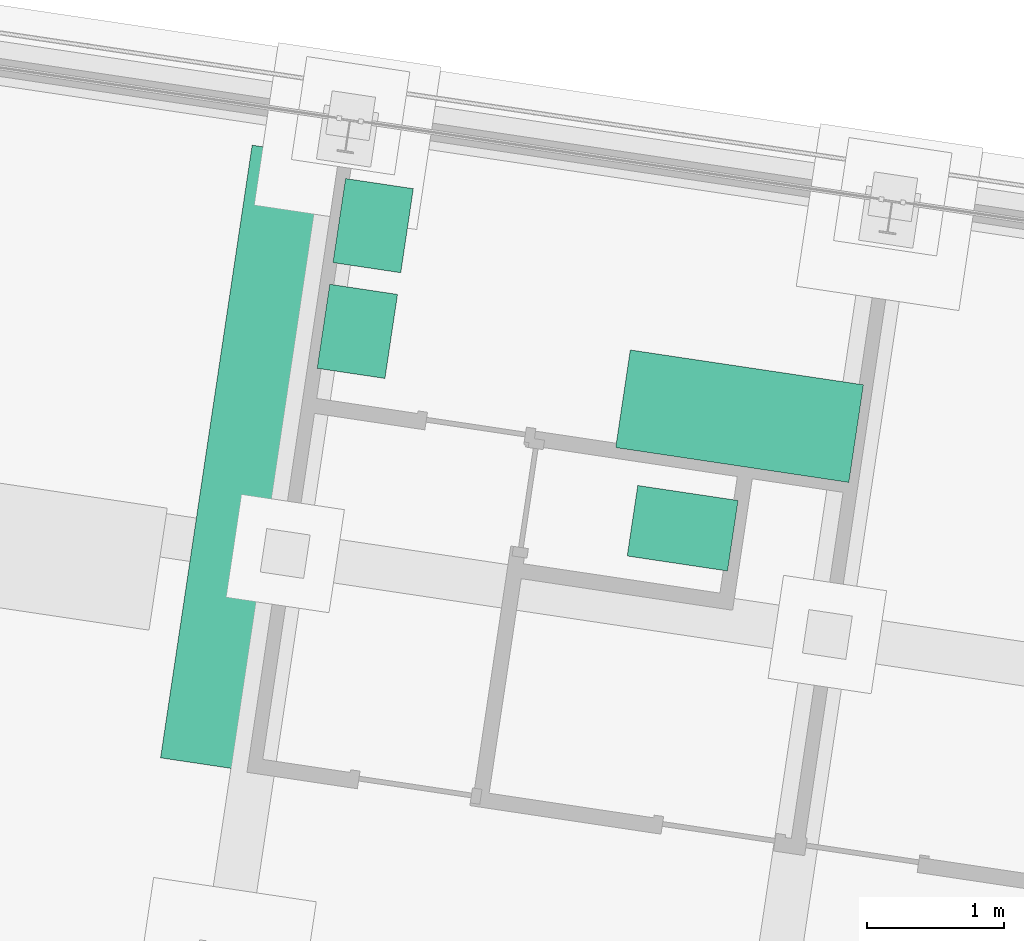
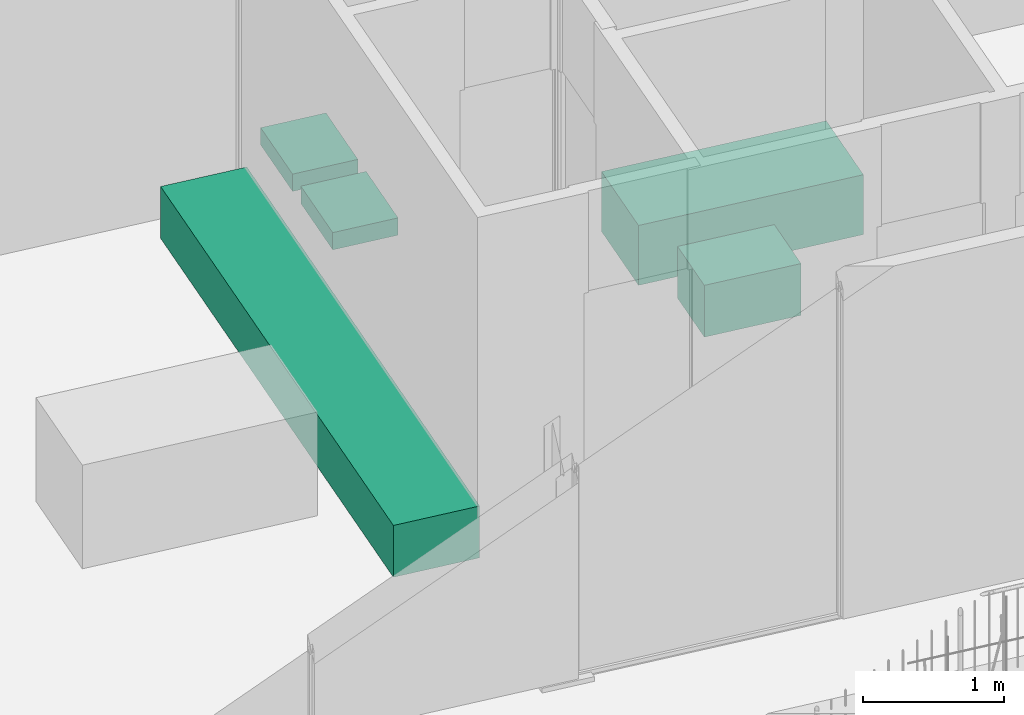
# One storey, part 141 of 143: 5 sanitary terminals.
"""IFC4 building model written with IfcOpenShell, lengths in metres."""

import ifcopenshell
import ifcopenshell.guid

model = None  # the IFC model being written
_history = None  # IfcOwnerHistory: only IFC2X3 demands one
_inside = {}  # id of a spatial element -> (the spatial element, [elements in it])
_under = {}  # id of a project, library or spatial element -> (it, [spatial elements below it])
_declared = {}  # id of a project -> (the project, [libraries it declares])
_typed = {}  # id of a type object -> (the type object, [elements of that type])
_made_of = {}  # id of a material, layer set ... -> (it, [elements and type objects made of it])


def new_model(schema):
    """Start an empty IFC model of exactly this schema.

    Asked for "IFC4X3", IfcOpenShell would pick the latest addendum, in which some entities
    have other attributes; the version numbers below select the first issue.
    IFC2X3 requires an IfcOwnerHistory on every rooted entity: one is made here for all.
    """
    global model, _history
    if schema == "IFC4X3":
        model = ifcopenshell.file(schema_version=(4, 3, 0, 0))
    else:
        model = ifcopenshell.file(schema=schema)
    _inside.clear()
    _under.clear()
    _declared.clear()
    _typed.clear()
    _made_of.clear()
    _history = None
    if model.schema == "IFC2X3":
        org = make("IfcOrganization", Name="unknown")
        user = make(
            "IfcPersonAndOrganization",
            ThePerson=make("IfcPerson", FamilyName="unknown"),
            TheOrganization=org,
        )
        app = make(
            "IfcApplication",
            ApplicationDeveloper=org,
            Version="unknown",
            ApplicationFullName="unknown",
            ApplicationIdentifier="unknown",
        )
        _history = make(
            "IfcOwnerHistory",
            OwningUser=user,
            OwningApplication=app,
            ChangeAction="ADDED",
            CreationDate=0,
        )
    return model


def make(cls, **values):
    """One entity of the class cls with the attributes given. An attribute that is None is left unset."""
    return model.create_entity(
        cls, **{name: value for name, value in values.items() if value is not None}
    )


def rooted(cls, **values):
    """An entity with a GlobalId (a new one), such as an element, a storey or a relation."""
    return make(cls, GlobalId=ifcopenshell.guid.new(), OwnerHistory=_history, **values)


def si_unit(unit_type, name, prefix=None):
    """IfcSIUnit, for example si_unit("LENGTHUNIT", "METRE", prefix="MILLI")."""
    return make("IfcSIUnit", UnitType=unit_type, Prefix=prefix, Name=name)


def assignment(units):
    """IfcUnitAssignment: the units of a project."""
    return None if units is None else make("IfcUnitAssignment", Units=units)


def point(xyz):
    """IfcCartesianPoint."""
    return None if xyz is None else make("IfcCartesianPoint", Coordinates=xyz)


def direction(xyz):
    """IfcDirection."""
    return None if xyz is None else make("IfcDirection", DirectionRatios=xyz)


def frame(location, z_axis=None, x_axis=None):
    """IfcAxis2Placement3D, a coordinate frame: its origin and axes. An axis left out is left unset."""
    return make(
        "IfcAxis2Placement3D",
        Location=point(location),
        Axis=direction(z_axis),
        RefDirection=direction(x_axis),
    )


def origin_with_axes():
    """The frame at (0, 0, 0) with the z axis (0, 0, 1) and the x axis (1, 0, 0) written out."""
    return frame((0.0, 0.0, 0.0), z_axis=(0.0, 0.0, 1.0), x_axis=(1.0, 0.0, 0.0))


def place(relative_to, where):
    """IfcLocalPlacement: puts the frame where relative to a parent placement (None: the world)."""
    return make(
        "IfcLocalPlacement", PlacementRelTo=relative_to, RelativePlacement=where
    )


def context(
    kind, dimensions, precision=None, world=None, true_north=None, identifier=None
):
    """IfcGeometricRepresentationContext, for example the 3D "Model" context."""
    return make(
        "IfcGeometricRepresentationContext",
        ContextIdentifier=identifier,
        ContextType=kind,
        CoordinateSpaceDimension=dimensions,
        Precision=precision,
        WorldCoordinateSystem=world,
        TrueNorth=true_north,
    )


def subcontext(parent, identifier, kind, view, scale=None):
    """IfcGeometricRepresentationSubContext, for example "Body" below "Model"."""
    return make(
        "IfcGeometricRepresentationSubContext",
        ContextIdentifier=identifier,
        ContextType=kind,
        ParentContext=parent,
        TargetScale=scale,
        TargetView=view,
    )


def project(units=None, contexts=None):
    """IfcProject with its units and contexts."""
    return rooted(
        "IfcProject",
        Name="project",
        RepresentationContexts=contexts,
        UnitsInContext=assignment(units),
    )


def spatial(cls, under=None, at=None, **own):
    """A site, building, storey or space (cls), placed at a placement, below another one or the project."""
    s = rooted(cls, ObjectPlacement=at, **own)
    if under is not None:
        _under.setdefault(under.id(), (under, []))[1].append(s)
    return s


def polyline(points):
    """IfcPolyline through the points."""
    return make("IfcPolyline", Points=[point(p) for p in points])


def outline(outer, holes=None, kind="AREA"):
    """IfcArbitraryClosedProfileDef: a profile drawn as a closed curve; with holes, ...WithVoids."""
    if holes is None:
        return make("IfcArbitraryClosedProfileDef", ProfileType=kind, OuterCurve=outer)
    return make(
        "IfcArbitraryProfileDefWithVoids",
        ProfileType=kind,
        OuterCurve=outer,
        InnerCurves=holes,
    )


def extrude(swept, where, along, depth):
    """IfcExtrudedAreaSolid: the profile swept, set in the frame where, extruded along a direction by depth."""
    return make(
        "IfcExtrudedAreaSolid",
        SweptArea=swept,
        Position=where,
        ExtrudedDirection=direction(along),
        Depth=depth,
    )


def shape(context_of_items, identifier, shape_type, items):
    """IfcShapeRepresentation: the items that make up one representation, for example the "Body"."""
    return make(
        "IfcShapeRepresentation",
        ContextOfItems=context_of_items,
        RepresentationIdentifier=identifier,
        RepresentationType=shape_type,
        Items=items,
    )


def material(Name=None, Category=None):
    """IfcMaterial."""
    return make("IfcMaterial", Name=Name, Category=Category)


def made_of(thing, what):
    """Note that an element or type object is made of a material, layer set ...; save() writes the relation."""
    if what is not None:
        _made_of.setdefault(what.id(), (what, []))[1].append(thing)
    return thing


def element(
    cls,
    number,
    at=None,
    inside=None,
    cuts=None,
    type_object=None,
    material=None,
    context=None,
    identifier="Body",
    shape_type=None,
    held_by="IfcProductDefinitionShape",
    body=None,
    shapes=None,
    **own,
):
    """One element of the class cls, such as IfcWall. Its Tag is "e" and its number.

    at: its placement. inside: the storey or other place that contains it. cuts: it is an
    opening in that element (IfcRelVoidsElement). A single representation is given by context,
    identifier, shape_type and body (its items); several are given by shapes. held_by: the class
    of the entity that holds the representations. save() writes the other relations.
    """
    e = rooted(cls, Tag="e%d" % number, ObjectPlacement=at, **own)
    if body is not None:
        shapes = [shape(context, identifier, shape_type, body)]
    if shapes is not None:
        e.Representation = make(held_by, Representations=shapes)
    if inside is not None:
        _inside.setdefault(inside.id(), (inside, []))[1].append(e)
    if cuts is not None:
        rooted(
            "IfcRelVoidsElement", RelatingBuildingElement=cuts, RelatedOpeningElement=e
        )
    if type_object is not None:
        _typed.setdefault(type_object.id(), (type_object, []))[1].append(e)
    return made_of(e, material)


def aggregate(whole, parts):
    """IfcRelAggregates: a whole, such as a stair, and the parts it consists of."""
    return rooted("IfcRelAggregates", RelatingObject=whole, RelatedObjects=parts)


def save(model, path):
    """Write the relations noted so far, then the file.

    IfcRelAggregates (storeys below a building ...), IfcRelContainedInSpatialStructure (elements
    in a storey), IfcRelDefinesByType, IfcRelAssociatesMaterial and IfcRelDeclares: one each for
    every whole, place, type object, material and project.
    """
    for whole, parts in _under.values():
        aggregate(whole, parts)
    for where, things in _inside.values():
        rooted(
            "IfcRelContainedInSpatialStructure",
            RelatedElements=things,
            RelatingStructure=where,
        )
    for kind, things in _typed.values():
        rooted("IfcRelDefinesByType", RelatedObjects=things, RelatingType=kind)
    for what, things in _made_of.values():
        rooted("IfcRelAssociatesMaterial", RelatedObjects=things, RelatingMaterial=what)
    for by, libraries in _declared.values():
        rooted("IfcRelDeclares", RelatingContext=by, RelatedDefinitions=libraries)
    model.write(path)


model = new_model("IFC4")

# Units and contexts
model_context = context("Model", 3, precision=1e-05, world=origin_with_axes(), true_north=direction((0.0, 1.0)))
body_context = subcontext(model_context, "Body", "Model", "MODEL_VIEW")
ifc_project = project(units=[si_unit("VOLUMEUNIT", "CUBIC_METRE"), si_unit("LENGTHUNIT", "METRE"), si_unit("AREAUNIT", "SQUARE_METRE")], contexts=[model_context])

# Site, building, storey
site_placement = place(None, origin_with_axes())
site = spatial("IfcSite", under=ifc_project, at=site_placement, Name="Lares · Rua das Mercês · artigo 4771")
building_placement = place(site_placement, frame((15.0, 9.7, 15.8), z_axis=(0.0, 0.0, 1.0), x_axis=(0.989015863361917, -0.147809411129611, 0.0)))
building = spatial("IfcBuilding", under=site, at=building_placement, Name="Casa Sobreposta")
storey_placement = place(building_placement, origin_with_axes())
storey = spatial("IfcBuildingStorey", under=building, at=storey_placement, Name="00 · Habitação e estacionamento", Elevation=15.8)

# Sanitary terminals
ifc_material = material(Name="Cerâmica sanitária — esquema", Category="ceramic")
sanitary_terminal_1_placement = place(storey_placement, origin_with_axes())
element("IfcSanitaryTerminal", 1, at=sanitary_terminal_1_placement, inside=storey, material=ifc_material, Name="Banheira", PredefinedType="BATH", context=body_context, shape_type="SweptSolid", body=[
    extrude(outline(polyline([(11.991, 4.32099999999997), (11.991, 5.041), (10.271, 5.041), (10.271, 4.32099999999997), (11.991, 4.32099999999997)])), origin_with_axes(), (0.0, 0.0, 1.0), 0.52),
])
sanitary_terminal_2_placement = place(storey_placement, frame((0.0, 0.0, 0.72), z_axis=(0.0, 0.0, 1.0), x_axis=(1.0, 0.0, 0.0)))
element("IfcSanitaryTerminal", 2, at=sanitary_terminal_2_placement, inside=storey, material=ifc_material, Name="Lavatório 1", PredefinedType="WASHHANDBASIN", context=body_context, shape_type="SweptSolid", body=[
    extrude(outline(polyline([(8.53099999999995, 4.57099999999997), (8.53099999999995, 5.19099999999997), (8.03099999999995, 5.19099999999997), (8.03099999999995, 4.57099999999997), (8.53099999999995, 4.57099999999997)])), origin_with_axes(), (0.0, 0.0, 1.0), 0.15),
])
sanitary_terminal_3_placement = place(storey_placement, frame((0.0, 0.0, 0.72), z_axis=(0.0, 0.0, 1.0), x_axis=(1.0, 0.0, 0.0)))
element("IfcSanitaryTerminal", 3, at=sanitary_terminal_3_placement, inside=storey, material=ifc_material, Name="Lavatório 2", PredefinedType="WASHHANDBASIN", context=body_context, shape_type="SweptSolid", body=[
    extrude(outline(polyline([(8.53099999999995, 5.351), (8.53099999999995, 5.971), (8.03099999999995, 5.971), (8.03099999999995, 5.351), (8.53099999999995, 5.351)])), origin_with_axes(), (0.0, 0.0, 1.0), 0.15),
])
sanitary_terminal_4_placement = place(storey_placement, origin_with_axes())
element("IfcSanitaryTerminal", 4, at=sanitary_terminal_4_placement, inside=storey, material=ifc_material, Name="Sanita", PredefinedType="TOILETPAN", context=body_context, shape_type="SweptSolid", body=[
    extrude(outline(polyline([(11.211, 3.55099999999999), (11.211, 4.07099999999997), (10.471, 4.07099999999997), (10.471, 3.55099999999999), (11.211, 3.55099999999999)])), origin_with_axes(), (0.0, 0.0, 1.0), 0.45),
])
sanitary_terminal_5_placement = place(storey_placement, origin_with_axes())
element("IfcSanitaryTerminal", 5, at=sanitary_terminal_5_placement, inside=storey, material=ifc_material, Name="Bancada de cozinha", PredefinedType="TOILETPAN", context=body_context, shape_type="SweptSolid", body=[
    extrude(outline(polyline([(7.98099999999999, 1.59100000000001), (7.98099999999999, 6.11099999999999), (7.32099999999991, 6.11099999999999), (7.32099999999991, 1.59100000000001), (7.98099999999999, 1.59100000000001)])), origin_with_axes(), (0.0, 0.0, 1.0), 0.45),
])

save(model, "model.ifc")
